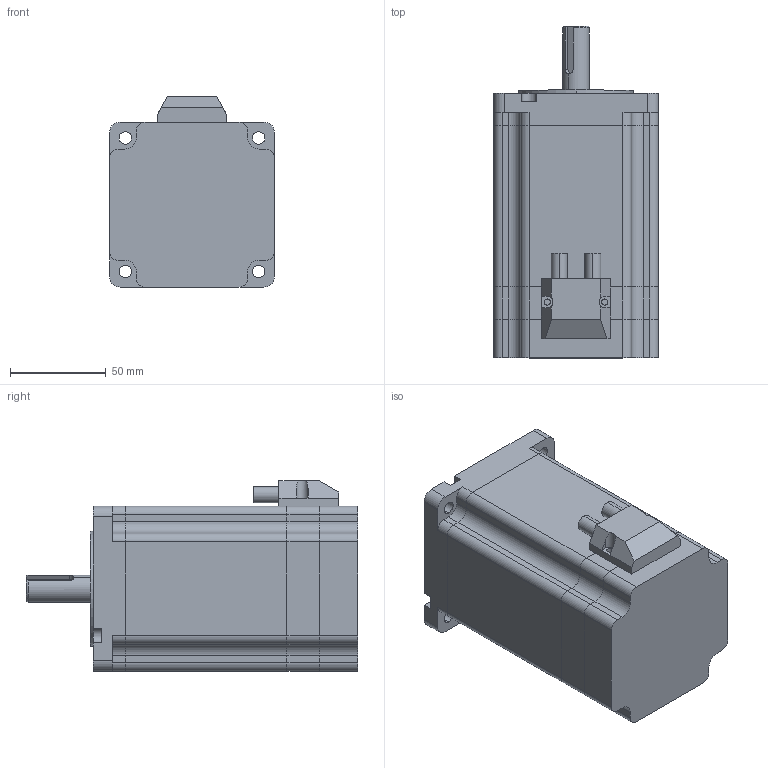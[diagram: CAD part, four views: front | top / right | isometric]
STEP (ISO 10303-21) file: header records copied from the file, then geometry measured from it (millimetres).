
FILE_DESCRIPTION (( 'STEP AP203' ), '1' );
FILE_NAME ('86HE2118-60A4-1435-002（60止口）.STEP', '2026-04-13T05:12:01', ( '' ), ( '' ), 'SwSTEP 2.0', 'SolidWorks 2024', '' );
FILE_SCHEMA (( 'CONFIG_CONTROL_DESIGN' ));
Length unit declared in the file: millimetre
Products named in the file (7): 001B（配合闭环）; 闭环后罩（配合闭环）; 14X5JX50长轴; 压线壳 双孔; 86HE2118-60A4-1435-002（60止口）; 86HS118  84H; 086.001F(60止口）
Assembly tree (6 placements, depth 2):
  86HE2118-60A4-1435-002（60止口）
    86HS118  84H
    001B（配合闭环）
    闭环后罩（配合闭环）
    压线壳 双孔
    14X5JX50长轴
    086.001F(60止口）
Bounding box: 86 x 173 x 99.2 mm (x, y, z)
Volume: 927669.9 mm3; surface area: 113542.8 mm2
Topology: 6 solids, 6 shells, 207 faces, 572 edges, 380 vertices
Faces by surface type: cylinder 109, plane 97, cone 1
Entity records: 7523 total; most frequent: CARTESIAN_POINT 1218, DIRECTION 1214, ORIENTED_EDGE 1144, EDGE_CURVE 572, AXIS2_PLACEMENT_3D 434, VERTEX_POINT 380, VECTOR 346, LINE 346
